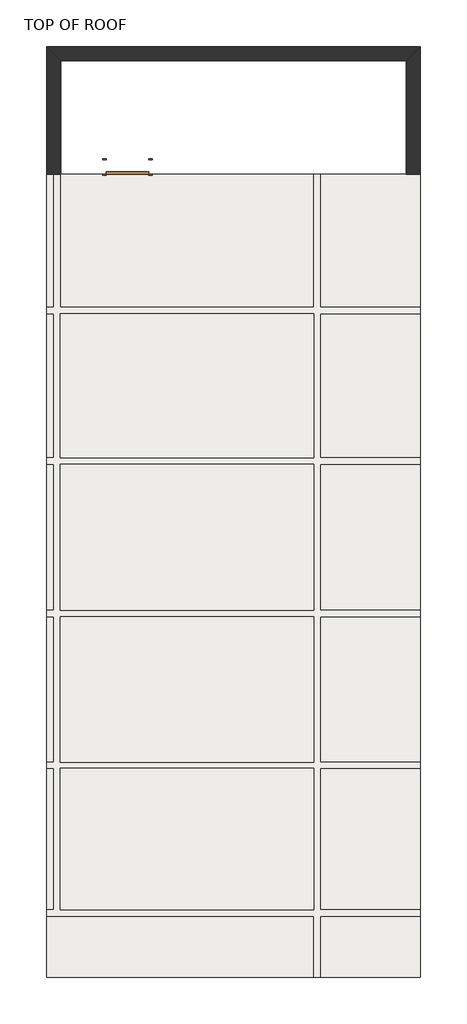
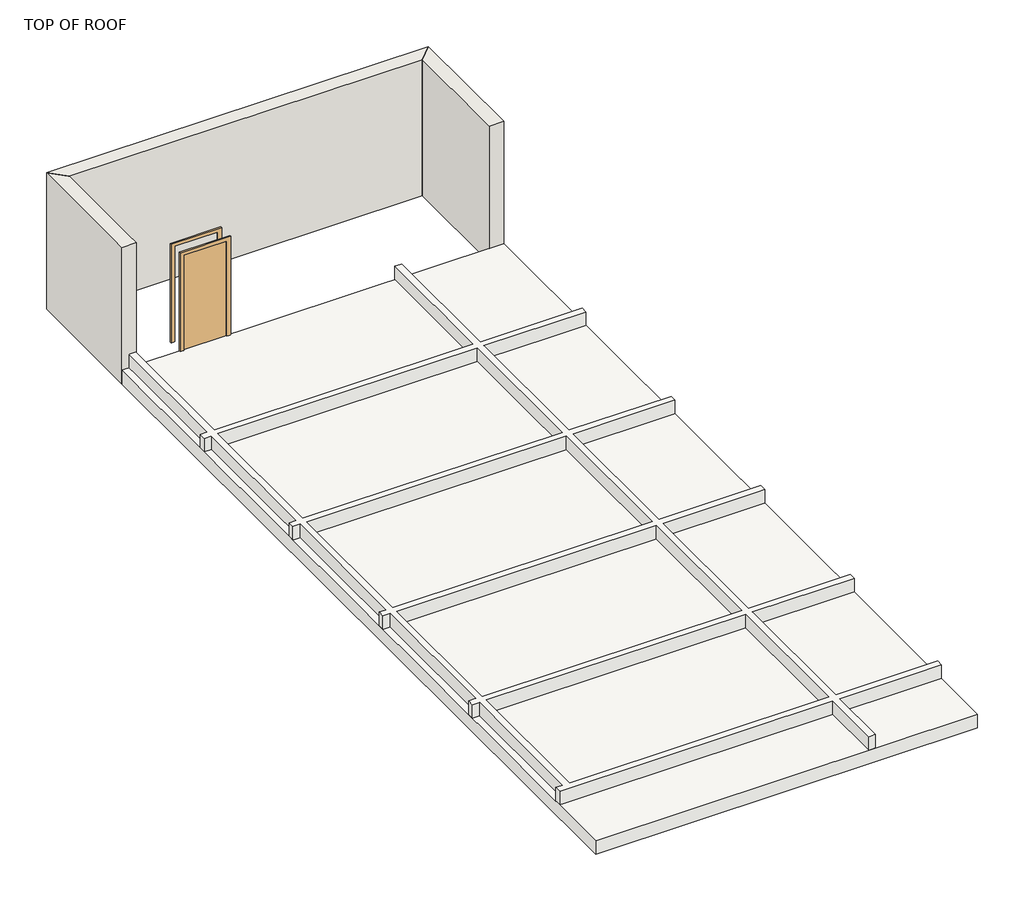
# One storey: 3 walls, 2 roofs, 1 door.
"""IFC4 building model written with IfcOpenShell, lengths in millimetres."""

from ifc_helpers import new_model, si_unit, frame, origin, place, context, project, spatial, polyline, outline, extrude, faceted_brep, transform, mapped, element, save
from components import door_03272193

model = new_model("IFC4")

# Units and contexts
model_context = context("Model", 3, world=origin())
ifc_project = project(units=[si_unit("LENGTHUNIT", "METRE", prefix="MILLI")], contexts=[model_context])

# Site, building, storey
site = spatial("IfcSite", under=ifc_project)
building = spatial("IfcBuilding", under=site)
storey = spatial("IfcBuildingStorey", under=building, Name="TOP OF ROOF", Elevation=10972.8)

# Door
placement = place(None, origin())
door_shape = door_03272193(model_context)
element("IfcDoor", 1, ObjectType="Single-Flush : 36\" x 84\"", at=placement, inside=storey, context=model_context, shape_type="MappedRepresentation", body=[
    mapped(door_shape, transform((-3019.2439612, 9304.759643, 11277.6), x_axis=(-1.0, 0.0, 0.0), y_axis=(0.0, -1.0, 0.0), z_axis=(0.0, 0.0, 1.0))),
])

# Roofs
element("IfcRoof", 2, ObjectType="Generic - 12\"", at=placement, inside=storey, context=model_context, shape_type="SweptSolid", body=[
    extrude(outline(polyline([(-4771.8439612, 9152.359643), (3305.3560388, 9152.359643), (3305.3560388, -8208.540357), (-4771.8439612, -8208.540357), (-4771.8439612, 9152.359643)])), frame((0.0, 0.0, 10972.8), z_axis=(0.0, 0.0, 1.0), x_axis=(1.0, 0.0, 0.0)), (0.0, 0.0, 1.0), 304.8),
])
element("IfcRoof", 3, ObjectType="Generic - 12\"", at=placement, inside=storey, context=model_context, shape_type="SweptSolid", body=[
    extrude(outline(polyline([(-4619.4439612, -276.541531), (-4619.4439612, 2879.4310017), (-4771.8439612, 2879.4310017), (-4771.8439612, 3019.1310017), (-4619.4439612, 3019.1310017), (-4619.4439612, 6136.9810017), (-4771.8439612, 6136.9810017), (-4771.8439612, 6276.6810017), (-4619.4439612, 6276.6810017), (-4619.4439612, 9152.359643), (-4479.7439612, 9152.359643), (-4479.7439612, 6276.6810017), (1006.6560388, 6276.6810017), (1006.6560388, 9152.359643), (1146.3560388, 9152.359643), (1146.3560388, 6276.6810017), (3305.3560388, 6276.6810017), (3305.3560388, 6136.9810017), (1146.3560388, 6136.9810017), (1146.3560388, 3019.1310017), (3305.3560388, 3019.1310017), (3305.3560388, 2879.4310017), (1146.3560388, 2879.4310017), (1146.3560388, -276.541531), (3305.3560388, -276.541531), (3305.3560388, -416.241531), (1146.3560388, -416.241531), (1146.3560388, -3553.1189983), (3305.3560388, -3553.1189983), (3305.3560388, -3692.8189983), (1146.3560388, -3692.8189983), (1146.3560388, -6748.040357), (3305.3560388, -6748.040357), (3305.3560388, -6887.740357), (1146.3560388, -6887.740357), (1146.3560388, -8208.540357), (1006.6560388, -8208.540357), (1006.6560388, -6887.740357), (-4771.8439612, -6887.740357), (-4771.8439612, -6748.040357), (-4619.4439612, -6748.040357), (-4619.4439612, -3692.8189983), (-4771.8439612, -3692.8189983), (-4771.8439612, -3553.1189983), (-4619.4439612, -3553.1189983), (-4619.4439612, -416.241531), (-4771.8439612, -416.241531), (-4771.8439612, -276.541531), (-4619.4439612, -276.541531)]), holes=[polyline([(1006.6560388, 6136.9810017), (-4479.7439612, 6136.9810017), (-4479.7439612, 3019.1310017), (1006.6560388, 3019.1310017), (1006.6560388, 6136.9810017)]), polyline([(1006.6560388, 2879.4310017), (-4479.7439612, 2879.4310017), (-4479.7439612, -276.541531), (1006.6560388, -276.541531), (1006.6560388, 2879.4310017)]), polyline([(1006.6560388, -416.241531), (-4479.7439612, -416.241531), (-4479.7439612, -3553.1189983), (1006.6560388, -3553.1189983), (1006.6560388, -416.241531)]), polyline([(1006.6560388, -3692.8189983), (-4479.7439612, -3692.8189983), (-4479.7439612, -6748.040357), (1006.6560388, -6748.040357), (1006.6560388, -3692.8189983)])]), frame((0.0, 0.0, 11277.6), z_axis=(0.0, 0.0, 1.0), x_axis=(1.0, 0.0, 0.0)), (0.0, 0.0, 1.0), 304.8),
])

# Walls
element("IfcWall", 4, ObjectType="Cast Concrete Wall 12\"", at=placement, inside=storey, context=model_context, shape_type="Brep", body=[
    faceted_brep([(-4467.0439612, 9152.359643, 10972.8), (-4467.0439612, 11603.459643, 10972.8), (-4467.0439612, 11603.459643, 14020.8), (-4467.0439612, 9457.159643, 14020.8), (-4467.0439612, 9152.359643, 14020.8), (-4771.8439612, 9152.359643, 10972.8), (-4771.8439612, 9152.359643, 14020.8), (-4771.8439612, 11908.259643, 14020.8), (-4771.8439612, 11908.259643, 10972.8)], [[[0, 1, 2, 3, 4]], [[5, 6, 7, 8]], [[1, 0, 5, 8]], [[4, 3, 2, 7, 6]], [[2, 1, 8, 7]], [[0, 4, 6, 5]]]),
])
element("IfcWall", 5, ObjectType="Cast Concrete Wall 12\"", at=placement, inside=storey, context=model_context, shape_type="SweptSolid", body=[
    extrude(outline(polyline([(3000.5560388, 11603.459643), (-4467.0439612, 11603.459643), (-4771.8439612, 11908.259643), (3305.3560388, 11908.259643), (3000.5560388, 11603.459643)])), frame((0.0, 0.0, 10972.8), z_axis=(0.0, 0.0, 1.0), x_axis=(1.0, 0.0, 0.0)), (0.0, 0.0, 1.0), 3048.0),
])
element("IfcWall", 6, ObjectType="Cast Concrete Wall 12\"", at=placement, inside=storey, context=model_context, shape_type="Brep", body=[
    faceted_brep([(3000.5560388, 11603.459643, 10972.8), (3000.5560388, 9152.359643, 10972.8), (3000.5560388, 9152.359643, 14020.8), (3000.5560388, 9457.159643, 14020.8), (3000.5560388, 11603.459643, 14020.8), (3305.3560388, 11908.259643, 10972.8), (3305.3560388, 11908.259643, 14020.8), (3305.3560388, 9152.359643, 14020.8), (3305.3560388, 9152.359643, 10972.8)], [[[0, 1, 2, 3, 4]], [[5, 6, 7, 8]], [[1, 0, 5, 8]], [[4, 3, 2, 7, 6]], [[0, 4, 6, 5]], [[2, 1, 8, 7]]]),
])

save(model, "model.ifc")
